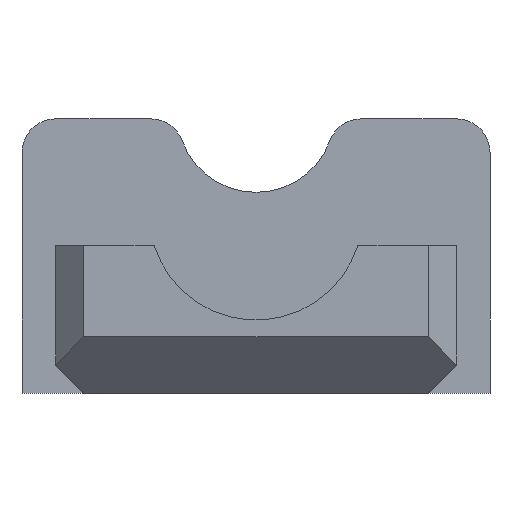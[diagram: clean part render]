
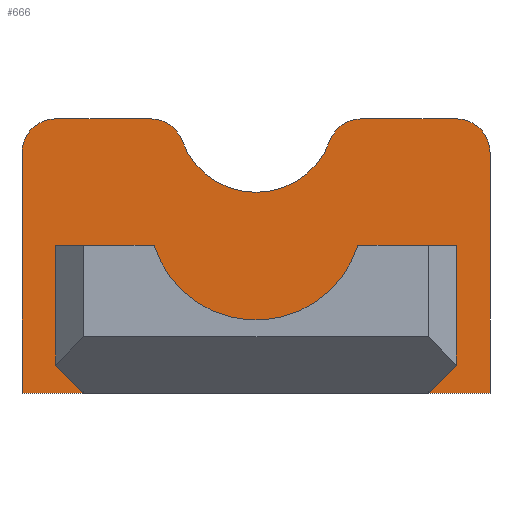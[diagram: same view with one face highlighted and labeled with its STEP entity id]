
A CAD part, left-side view. The second image highlights one B-rep face of the part: STEP entity #666.
In plain terms, the highlighted planar face has unit normal (-1, 0, 0).
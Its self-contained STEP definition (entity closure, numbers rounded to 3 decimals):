
#15=FACE_BOUND('',#94,.T.);
#27=CIRCLE('',#710,3.);
#28=CIRCLE('',#713,3.);
#29=CIRCLE('',#717,3.);
#30=CIRCLE('',#719,7.);
#31=CIRCLE('',#721,3.);
#32=CIRCLE('',#726,9.5);
#58=FACE_OUTER_BOUND('',#93,.T.);
#93=EDGE_LOOP('',(#549,#550,#551,#552,#553,#554,#555,#556,#557,#558));
#94=EDGE_LOOP('',(#559,#560,#561,#562,#563,#564));
#113=LINE('',#936,#195);
#148=LINE('',#1018,#230);
#152=LINE('',#1027,#234);
#153=LINE('',#1029,#235);
#157=LINE('',#1045,#239);
#162=LINE('',#1055,#244);
#164=LINE('',#1059,#246);
#167=LINE('',#1064,#249);
#168=LINE('',#1066,#250);
#169=LINE('',#1069,#251);
#195=VECTOR('',#752,10.);
#230=VECTOR('',#825,10.);
#234=VECTOR('',#835,10.);
#235=VECTOR('',#838,10.);
#239=VECTOR('',#856,10.);
#244=VECTOR('',#863,10.);
#246=VECTOR('',#867,10.);
#249=VECTOR('',#872,10.);
#250=VECTOR('',#873,10.);
#251=VECTOR('',#876,10.);
#276=VERTEX_POINT('',#933);
#277=VERTEX_POINT('',#935);
#303=VERTEX_POINT('',#1011);
#304=VERTEX_POINT('',#1012);
#305=VERTEX_POINT('',#1017);
#306=VERTEX_POINT('',#1021);
#307=VERTEX_POINT('',#1023);
#308=VERTEX_POINT('',#1031);
#309=VERTEX_POINT('',#1035);
#310=VERTEX_POINT('',#1039);
#311=VERTEX_POINT('',#1043);
#312=VERTEX_POINT('',#1044);
#316=VERTEX_POINT('',#1054);
#317=VERTEX_POINT('',#1058);
#319=VERTEX_POINT('',#1065);
#320=VERTEX_POINT('',#1067);
#339=EDGE_CURVE('',#276,#277,#113,.F.);
#377=EDGE_CURVE('',#303,#304,#27,.T.);
#380=EDGE_CURVE('',#305,#304,#148,.T.);
#383=EDGE_CURVE('',#306,#307,#28,.T.);
#385=EDGE_CURVE('',#276,#307,#152,.T.);
#386=EDGE_CURVE('',#303,#277,#153,.T.);
#387=EDGE_CURVE('',#305,#308,#29,.T.);
#389=EDGE_CURVE('',#309,#308,#30,.T.);
#391=EDGE_CURVE('',#309,#310,#31,.T.);
#393=EDGE_CURVE('',#311,#312,#157,.T.);
#398=EDGE_CURVE('',#316,#311,#162,.T.);
#400=EDGE_CURVE('',#317,#316,#164,.T.);
#403=EDGE_CURVE('',#306,#310,#167,.T.);
#404=EDGE_CURVE('',#312,#319,#168,.T.);
#405=EDGE_CURVE('',#319,#320,#32,.T.);
#406=EDGE_CURVE('',#320,#317,#169,.T.);
#549=ORIENTED_EDGE('',*,*,#339,.F.);
#550=ORIENTED_EDGE('',*,*,#385,.T.);
#551=ORIENTED_EDGE('',*,*,#383,.F.);
#552=ORIENTED_EDGE('',*,*,#403,.T.);
#553=ORIENTED_EDGE('',*,*,#391,.F.);
#554=ORIENTED_EDGE('',*,*,#389,.T.);
#555=ORIENTED_EDGE('',*,*,#387,.F.);
#556=ORIENTED_EDGE('',*,*,#380,.T.);
#557=ORIENTED_EDGE('',*,*,#377,.F.);
#558=ORIENTED_EDGE('',*,*,#386,.T.);
#559=ORIENTED_EDGE('',*,*,#398,.T.);
#560=ORIENTED_EDGE('',*,*,#393,.T.);
#561=ORIENTED_EDGE('',*,*,#404,.T.);
#562=ORIENTED_EDGE('',*,*,#405,.T.);
#563=ORIENTED_EDGE('',*,*,#406,.T.);
#564=ORIENTED_EDGE('',*,*,#400,.T.);
#632=PLANE('',#725);
#666=ADVANCED_FACE('',(#58,#15),#632,.F.);
#710=AXIS2_PLACEMENT_3D('',#1013,#819,#820);
#713=AXIS2_PLACEMENT_3D('',#1024,#830,#831);
#717=AXIS2_PLACEMENT_3D('',#1032,#841,#842);
#719=AXIS2_PLACEMENT_3D('',#1036,#846,#847);
#721=AXIS2_PLACEMENT_3D('',#1040,#851,#852);
#725=AXIS2_PLACEMENT_3D('',#1063,#870,#871);
#726=AXIS2_PLACEMENT_3D('',#1068,#874,#875);
#752=DIRECTION('',(0.,-1.,0.));
#819=DIRECTION('center_axis',(1.,0.,0.));
#820=DIRECTION('ref_axis',(0.,0.707,0.707));
#825=DIRECTION('',(0.,1.,0.));
#830=DIRECTION('center_axis',(1.,0.,0.));
#831=DIRECTION('ref_axis',(0.,-0.707,0.707));
#835=DIRECTION('',(0.,0.,1.));
#838=DIRECTION('',(0.,0.,-1.));
#841=DIRECTION('center_axis',(1.,0.,0.));
#842=DIRECTION('ref_axis',(0.,-0.572,0.82));
#846=DIRECTION('center_axis',(1.,0.,0.));
#847=DIRECTION('ref_axis',(0.,1.,0.));
#851=DIRECTION('center_axis',(1.,0.,0.));
#852=DIRECTION('ref_axis',(0.,0.572,0.82));
#856=DIRECTION('',(0.,0.,1.));
#863=DIRECTION('',(0.,1.,0.));
#867=DIRECTION('',(0.,0.,-1.));
#870=DIRECTION('center_axis',(1.,0.,0.));
#871=DIRECTION('ref_axis',(0.,1.,0.));
#872=DIRECTION('',(0.,1.,0.));
#873=DIRECTION('',(0.,-1.,0.));
#874=DIRECTION('center_axis',(-1.,0.,0.));
#875=DIRECTION('ref_axis',(0.,1.,0.));
#876=DIRECTION('',(0.,-1.,0.));
#933=CARTESIAN_POINT('',(96.15,-20.8,-202.15));
#935=CARTESIAN_POINT('',(96.15,20.8,-202.15));
#936=CARTESIAN_POINT('',(96.15,-10.4,-202.15));
#1011=CARTESIAN_POINT('',(96.15,20.8,-180.76));
#1012=CARTESIAN_POINT('',(96.15,17.8,-177.76));
#1013=CARTESIAN_POINT('Origin',(96.15,17.8,-180.76));
#1017=CARTESIAN_POINT('',(96.15,9.382,-177.76));
#1018=CARTESIAN_POINT('',(96.15,-20.8,-177.76));
#1021=CARTESIAN_POINT('',(96.15,-17.8,-177.76));
#1023=CARTESIAN_POINT('',(96.15,-20.8,-180.76));
#1024=CARTESIAN_POINT('Origin',(96.15,-17.8,-180.76));
#1027=CARTESIAN_POINT('',(96.15,-20.8,-183.851));
#1029=CARTESIAN_POINT('',(96.15,20.8,-196.033));
#1031=CARTESIAN_POINT('',(96.15,6.567,-179.722));
#1032=CARTESIAN_POINT('Origin',(96.15,9.382,-180.76));
#1035=CARTESIAN_POINT('',(96.15,-6.567,-179.722));
#1036=CARTESIAN_POINT('Origin',(96.15,0.,-177.298));
#1039=CARTESIAN_POINT('',(96.15,-9.382,-177.76));
#1040=CARTESIAN_POINT('Origin',(96.15,-9.382,-180.76));
#1043=CARTESIAN_POINT('',(96.15,15.3,-202.15));
#1044=CARTESIAN_POINT('',(96.15,15.3,-189.));
#1045=CARTESIAN_POINT('',(96.15,15.3,-196.046));
#1054=CARTESIAN_POINT('',(96.15,-15.3,-202.15));
#1055=CARTESIAN_POINT('',(96.15,0.,-202.15));
#1058=CARTESIAN_POINT('',(96.15,-15.3,-189.));
#1059=CARTESIAN_POINT('',(96.15,-15.3,-189.471));
#1063=CARTESIAN_POINT('Origin',(96.15,-15.3,-190.));
#1064=CARTESIAN_POINT('',(96.15,-20.8,-177.76));
#1065=CARTESIAN_POINT('',(96.15,9.062,-189.));
#1066=CARTESIAN_POINT('',(96.15,0.,-189.));
#1067=CARTESIAN_POINT('',(96.15,-9.062,-189.));
#1068=CARTESIAN_POINT('Origin',(96.15,0.,-186.15));
#1069=CARTESIAN_POINT('',(96.15,0.,-189.));
